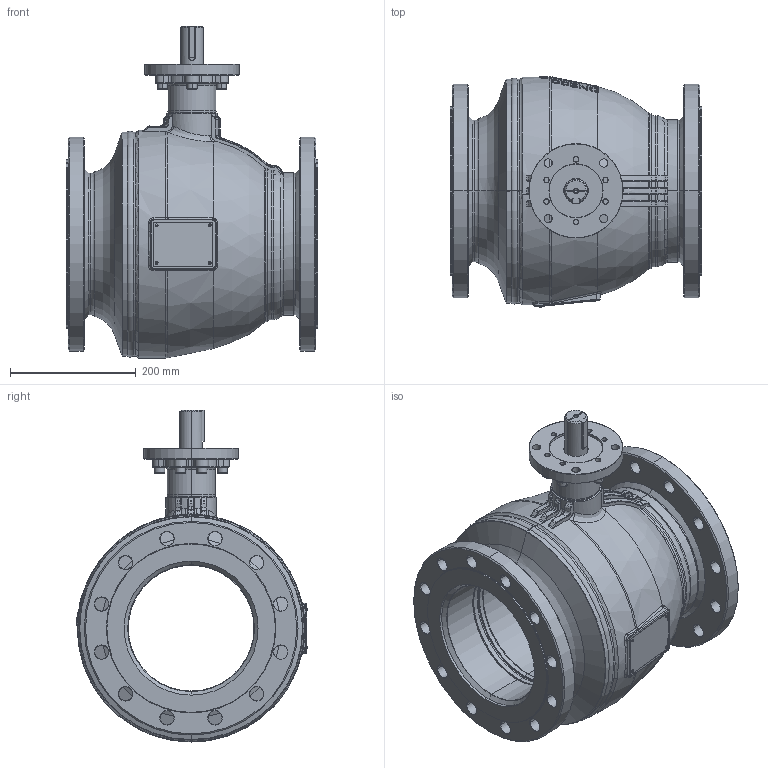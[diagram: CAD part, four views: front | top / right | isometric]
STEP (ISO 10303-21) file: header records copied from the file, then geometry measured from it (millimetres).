
FILE_DESCRIPTION((''),'2;1');
FILE_NAME('KHMO-F-V-200P016-VII-_SW0001','2024-04-16T15:17:47',('jeitlers'),('KLINGER'),'CREO PARAMETRIC BY PTC INC, 2023014','CREO PARAMETRIC BY PTC INC, 2023014','');
FILE_SCHEMA(('CONFIG_CONTROL_DESIGN'));
Products named in the file (1): KHMO-F-V-200P016-VII-_SW0001
Bounding box: 400 x 367.36 x 528 mm (x, y, z)
Volume: 10462070.8 mm3; surface area: 2046022 mm2
Topology: 4 solids, 4 shells, 1558 faces, 3955 edges, 2445 vertices
Faces by surface type: plane 643, cylinder 320, cone 252, torus 204, bspline 117, sphere 22
Entity records: 63815 total; most frequent: CARTESIAN_POINT 27743, ORIENTED_EDGE 7850, DIRECTION 7210, EDGE_CURVE 3925, AXIS2_PLACEMENT_3D 2965, VERTEX_POINT 2445, EDGE_LOOP 1710, FACE_OUTER_BOUND 1558
